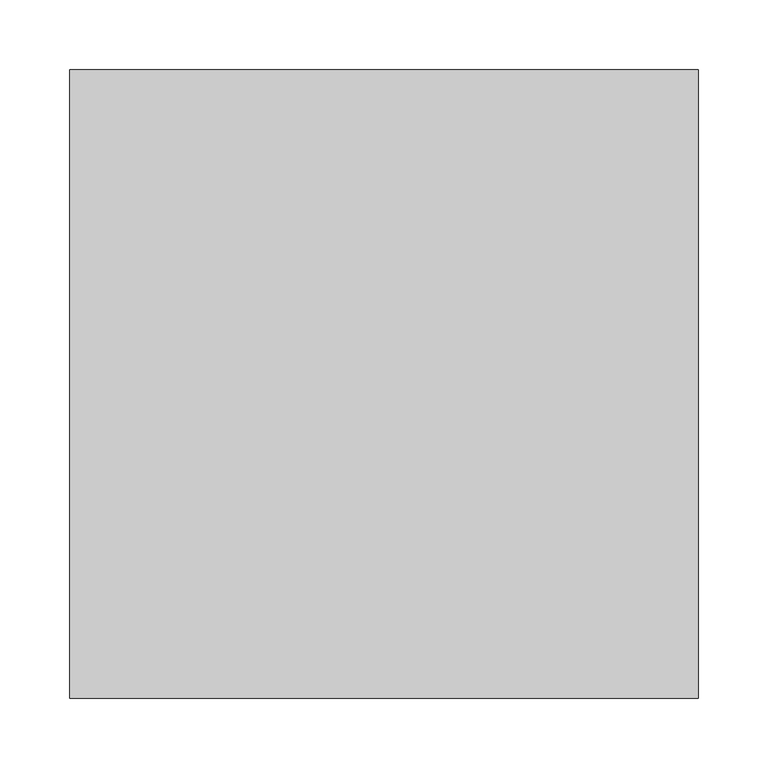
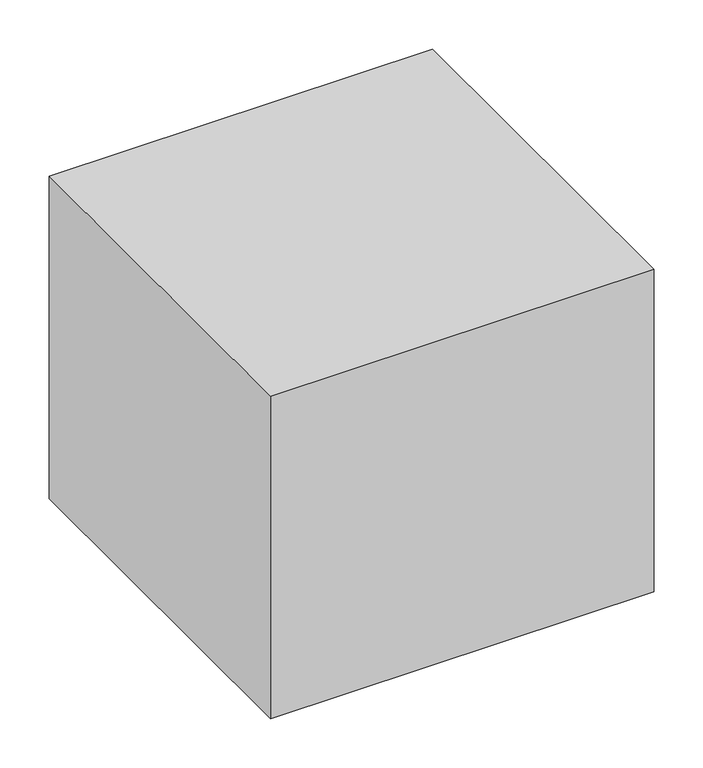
"""IFC4 building model written with IfcOpenShell, lengths in millimetres: proxy geometry, 制気口ボックス : 制気口ボックス."""

from ifc_helpers import new_model, si_unit, frame, origin, place, context, project, spatial, polyline, outline, extrude, source, transform, mapped, element, save


def mechanical_equipment_c69e5b7e(model_context):
    return source(origin(), model_context, "Body", "SweptSolid", [
        extrude(outline(polyline([(225.0, 225.0), (225.0, -225.0), (-225.0, -225.0), (-225.0, 225.0), (225.0, 225.0)])), frame((0.0, 0.0, -200.0), z_axis=(0.0, 0.0, 1.0), x_axis=(1.0, 0.0, 0.0)), (0.0, 0.0, 1.0), 400.0),
    ])


if __name__ == "__main__":
    model = new_model("IFC4")
    model_context = context("Model", 3, world=origin())
    ifc_project = project(units=[si_unit("LENGTHUNIT", "METRE", prefix="MILLI")], contexts=[model_context])
    site = spatial("IfcSite", under=ifc_project)
    building = spatial("IfcBuilding", under=site)
    placement = place(None, origin())
    mechanical_equipment_shape = mechanical_equipment_c69e5b7e(model_context)
    element("IfcBuildingElementProxy", 1, Name="制気口ボックス : 制気口ボックス", ObjectType="制気口ボックス : 制気口ボックス", at=placement, inside=building, context=model_context, shape_type="MappedRepresentation", body=[
        mapped(mechanical_equipment_shape, transform((0.0, 0.0, 0.0), x_axis=(1.0, 0.0, 0.0), y_axis=(0.0, 1.0, 0.0), z_axis=(0.0, 0.0, 1.0))),
    ])
    save(model, "model.ifc")
